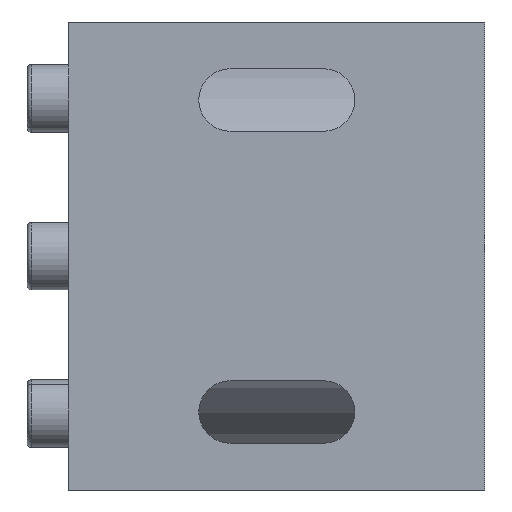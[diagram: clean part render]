
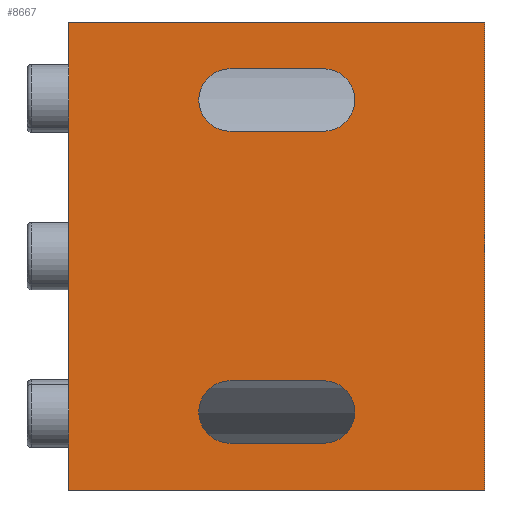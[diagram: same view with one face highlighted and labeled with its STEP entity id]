
A CAD part, front view. The second image highlights one B-rep face of the part: STEP entity #8667.
In plain terms, the highlighted planar face has unit normal (0, -1, 0).
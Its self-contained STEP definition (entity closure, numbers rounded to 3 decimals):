
#41 = CARTESIAN_POINT ( 'NONE',  ( 39.5, -70., -24. ) ) ;
#43 = CARTESIAN_POINT ( 'NONE',  ( 70.5, -70., -45. ) ) ;
#829 = CARTESIAN_POINT ( 'NONE',  ( 21.5, -70., 30. ) ) ;
#987 = CARTESIAN_POINT ( 'NONE',  ( 21.5, -70., 36. ) ) ;
#1123 = AXIS2_PLACEMENT_3D ( 'NONE', #2332, #6184, #10019 ) ;
#1265 = ORIENTED_EDGE ( 'NONE', *, *, #7877, .F. ) ;
#1293 = LINE ( 'NONE', #5162, #9055 ) ;
#1448 = CARTESIAN_POINT ( 'NONE',  ( -9.5, -70., 45. ) ) ;
#1457 = CARTESIAN_POINT ( 'NONE',  ( 39.5, -70., 36. ) ) ;
#1462 = LINE ( 'NONE', #5331, #1806 ) ;
#1679 = FACE_OUTER_BOUND ( 'NONE', #11697, .T. ) ;
#1806 = VECTOR ( 'NONE', #9156, 1000. ) ;
#1854 = EDGE_CURVE ( 'NONE', #5121, #11013, #3875, .T. ) ;
#1916 = EDGE_CURVE ( 'NONE', #11600, #10175, #1462, .T. ) ;
#2045 = CARTESIAN_POINT ( 'NONE',  ( 39.5, -70., -36. ) ) ;
#2183 = EDGE_CURVE ( 'NONE', #5254, #4427, #11084, .T. ) ;
#2188 = ORIENTED_EDGE ( 'NONE', *, *, #10425, .F. ) ;
#2332 = CARTESIAN_POINT ( 'NONE',  ( 21.5, -70., -30. ) ) ;
#2354 = VECTOR ( 'NONE', #5327, 1000. ) ;
#2454 = CARTESIAN_POINT ( 'NONE',  ( 70.5, -70., 45. ) ) ;
#2536 = VERTEX_POINT ( 'NONE', #7765 ) ;
#2811 = DIRECTION ( 'NONE',  ( 0., -1., 0. ) ) ;
#3118 = AXIS2_PLACEMENT_3D ( 'NONE', #3813, #7653, #11490 ) ;
#3456 = VERTEX_POINT ( 'NONE', #9643 ) ;
#3602 = VERTEX_POINT ( 'NONE', #4290 ) ;
#3694 = CARTESIAN_POINT ( 'NONE',  ( 70.5, -70., 45. ) ) ;
#3746 = DIRECTION ( 'NONE',  ( 1., 0., 0. ) ) ;
#3813 = CARTESIAN_POINT ( 'NONE',  ( 39.5, -70., 30. ) ) ;
#3835 = VERTEX_POINT ( 'NONE', #987 ) ;
#3875 = LINE ( 'NONE', #7720, #5314 ) ;
#3882 = VECTOR ( 'NONE', #6283, 1000. ) ;
#3909 = EDGE_CURVE ( 'NONE', #9132, #9952, #1293, .T. ) ;
#3928 = DIRECTION ( 'NONE',  ( -1., 0., 0. ) ) ;
#3929 = DIRECTION ( 'NONE',  ( 1., 0., 0. ) ) ;
#4180 = ORIENTED_EDGE ( 'NONE', *, *, #1854, .F. ) ;
#4290 = CARTESIAN_POINT ( 'NONE',  ( 39.5, -70., 36. ) ) ;
#4364 = VECTOR ( 'NONE', #3746, 1000. ) ;
#4427 = VERTEX_POINT ( 'NONE', #7463 ) ;
#4507 = CARTESIAN_POINT ( 'NONE',  ( 39.5, -70., 24. ) ) ;
#4689 = DIRECTION ( 'NONE',  ( 0., -1., 0. ) ) ;
#4697 = AXIS2_PLACEMENT_3D ( 'NONE', #11425, #2811, #6637 ) ;
#4761 = CARTESIAN_POINT ( 'NONE',  ( 21.5, -70., -36. ) ) ;
#4846 = ORIENTED_EDGE ( 'NONE', *, *, #1916, .F. ) ;
#4968 = CIRCLE ( 'NONE', #12012, 6. ) ;
#5114 = EDGE_LOOP ( 'NONE', ( #12118, #6395, #4180, #8302 ) ) ;
#5121 = VERTEX_POINT ( 'NONE', #8297 ) ;
#5162 = CARTESIAN_POINT ( 'NONE',  ( -9.5, -70., 45. ) ) ;
#5254 = VERTEX_POINT ( 'NONE', #9079 ) ;
#5314 = VECTOR ( 'NONE', #11565, 1000. ) ;
#5320 = AXIS2_PLACEMENT_3D ( 'NONE', #3694, #7529, #11376 ) ;
#5327 = DIRECTION ( 'NONE',  ( -1., 0., 0. ) ) ;
#5331 = CARTESIAN_POINT ( 'NONE',  ( 39.5, -70., -36. ) ) ;
#5538 = PLANE ( 'NONE',  #5320 ) ;
#6184 = DIRECTION ( 'NONE',  ( 0., -1., 0. ) ) ;
#6194 = EDGE_CURVE ( 'NONE', #11013, #3602, #8554, .T. ) ;
#6283 = DIRECTION ( 'NONE',  ( 0., 0., -1. ) ) ;
#6395 = ORIENTED_EDGE ( 'NONE', *, *, #6194, .F. ) ;
#6461 = FACE_BOUND ( 'NONE', #6983, .T. ) ;
#6585 = CIRCLE ( 'NONE', #1123, 6. ) ;
#6637 = DIRECTION ( 'NONE',  ( 0., 0., 1. ) ) ;
#6773 = VECTOR ( 'NONE', #3928, 1000. ) ;
#6971 = VECTOR ( 'NONE', #3929, 1000. ) ;
#6983 = EDGE_LOOP ( 'NONE', ( #2188, #8065, #4846, #7990 ) ) ;
#7463 = CARTESIAN_POINT ( 'NONE',  ( 70.5, -70., -45. ) ) ;
#7529 = DIRECTION ( 'NONE',  ( 0., 1., 0. ) ) ;
#7653 = DIRECTION ( 'NONE',  ( 0., -1., 0. ) ) ;
#7720 = CARTESIAN_POINT ( 'NONE',  ( 39.5, -70., 24. ) ) ;
#7765 = CARTESIAN_POINT ( 'NONE',  ( 39.5, -70., -24. ) ) ;
#7877 = EDGE_CURVE ( 'NONE', #9132, #5254, #8533, .T. ) ;
#7990 = ORIENTED_EDGE ( 'NONE', *, *, #8291, .F. ) ;
#8065 = ORIENTED_EDGE ( 'NONE', *, *, #8712, .F. ) ;
#8291 = EDGE_CURVE ( 'NONE', #3456, #11600, #6585, .T. ) ;
#8297 = CARTESIAN_POINT ( 'NONE',  ( 21.5, -70., 24. ) ) ;
#8302 = ORIENTED_EDGE ( 'NONE', *, *, #11889, .F. ) ;
#8530 = DIRECTION ( 'NONE',  ( 0., 0., -1. ) ) ;
#8533 = LINE ( 'NONE', #12387, #4364 ) ;
#8554 = CIRCLE ( 'NONE', #3118, 6. ) ;
#8578 = ORIENTED_EDGE ( 'NONE', *, *, #3909, .T. ) ;
#8667 = ADVANCED_FACE ( 'NONE', ( #6461, #10315, #1679 ), #5538, .F. ) ;
#8705 = LINE ( 'NONE', #41, #6773 ) ;
#8706 = LINE ( 'NONE', #43, #6971 ) ;
#8712 = EDGE_CURVE ( 'NONE', #10175, #2536, #10132, .T. ) ;
#8995 = DIRECTION ( 'NONE',  ( 0., 0., -1. ) ) ;
#9055 = VECTOR ( 'NONE', #8995, 1000. ) ;
#9079 = CARTESIAN_POINT ( 'NONE',  ( 70.5, -70., 45. ) ) ;
#9132 = VERTEX_POINT ( 'NONE', #1448 ) ;
#9156 = DIRECTION ( 'NONE',  ( 1., 0., 0. ) ) ;
#9643 = CARTESIAN_POINT ( 'NONE',  ( 21.5, -70., -24. ) ) ;
#9952 = VERTEX_POINT ( 'NONE', #10061 ) ;
#10019 = DIRECTION ( 'NONE',  ( 0., 0., 1. ) ) ;
#10061 = CARTESIAN_POINT ( 'NONE',  ( -9.5, -70., -45. ) ) ;
#10094 = LINE ( 'NONE', #1457, #2354 ) ;
#10121 = ORIENTED_EDGE ( 'NONE', *, *, #2183, .F. ) ;
#10132 = CIRCLE ( 'NONE', #4697, 6. ) ;
#10175 = VERTEX_POINT ( 'NONE', #2045 ) ;
#10275 = ORIENTED_EDGE ( 'NONE', *, *, #11959, .T. ) ;
#10315 = FACE_BOUND ( 'NONE', #5114, .T. ) ;
#10425 = EDGE_CURVE ( 'NONE', #2536, #3456, #8705, .T. ) ;
#11013 = VERTEX_POINT ( 'NONE', #4507 ) ;
#11084 = LINE ( 'NONE', #2454, #3882 ) ;
#11376 = DIRECTION ( 'NONE',  ( 0., 0., 1. ) ) ;
#11425 = CARTESIAN_POINT ( 'NONE',  ( 39.5, -70., -30. ) ) ;
#11490 = DIRECTION ( 'NONE',  ( 0., 0., -1. ) ) ;
#11565 = DIRECTION ( 'NONE',  ( 1., 0., 0. ) ) ;
#11600 = VERTEX_POINT ( 'NONE', #4761 ) ;
#11697 = EDGE_LOOP ( 'NONE', ( #10275, #10121, #1265, #8578 ) ) ;
#11889 = EDGE_CURVE ( 'NONE', #3835, #5121, #4968, .T. ) ;
#11959 = EDGE_CURVE ( 'NONE', #9952, #4427, #8706, .T. ) ;
#12012 = AXIS2_PLACEMENT_3D ( 'NONE', #829, #4689, #8530 ) ;
#12079 = EDGE_CURVE ( 'NONE', #3602, #3835, #10094, .T. ) ;
#12118 = ORIENTED_EDGE ( 'NONE', *, *, #12079, .F. ) ;
#12387 = CARTESIAN_POINT ( 'NONE',  ( 70.5, -70., 45. ) ) ;
